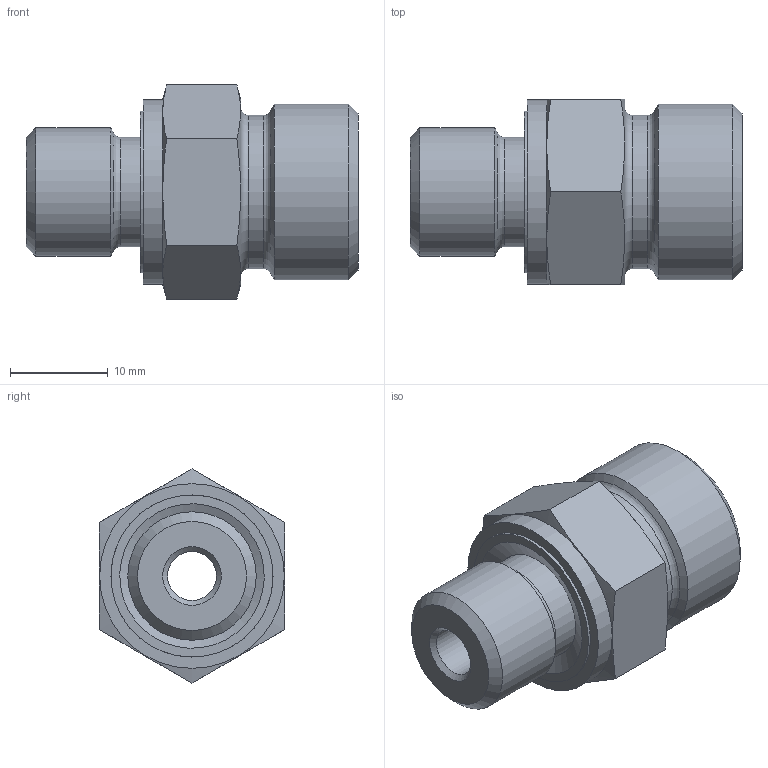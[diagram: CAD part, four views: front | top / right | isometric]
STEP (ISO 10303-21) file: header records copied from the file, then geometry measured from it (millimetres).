
FILE_DESCRIPTION( ( 'Unknown' ), '1' );
FILE_NAME( 'C:/Users/p.nanko/Desktop/3D SR/XGE10SED02.stp', 'Unknown', ( 'Peter Nanko' ), ( 'Armaturen Arndt' ), 'PSStep 14.0', 'Solid Edge ST4', ' ' );
FILE_SCHEMA( ( 'AUTOMOTIVE_DESIGN { 1 0 10303 214 1 1 1 1 }' ) );
Length unit declared in the file: millimetre
Products named in the file (3): Assem1; EDRING02; XGE10SED023
Assembly tree (2 placements, depth 2):
  Assem1
    EDRING02
    XGE10SED023
Bounding box: 34 x 19 x 21.94 mm (x, y, z)
Volume: 6189.7 mm3; surface area: 3488.1 mm2
Topology: 2 solids, 2 shells, 37 faces, 74 edges, 45 vertices
Faces by surface type: plane 14, cylinder 10, cone 9, torus 4
Full cylindrical faces by diameter (mm): 5 x1, 10 x1, 11.2 x1, 11.3 x1, 13.157 x1, 15.7 x1, 16.6 x2, 18 x1, 18.9 x1
Entity records: 1246 total; most frequent: CARTESIAN_POINT 230, DIRECTION 146, ORIENTED_EDGE 96, AXIS2_PLACEMENT_3D 70, EDGE_LOOP 68, FACE_OUTER_BOUND 51, EDGE_CURVE 48, VERTEX_POINT 42
